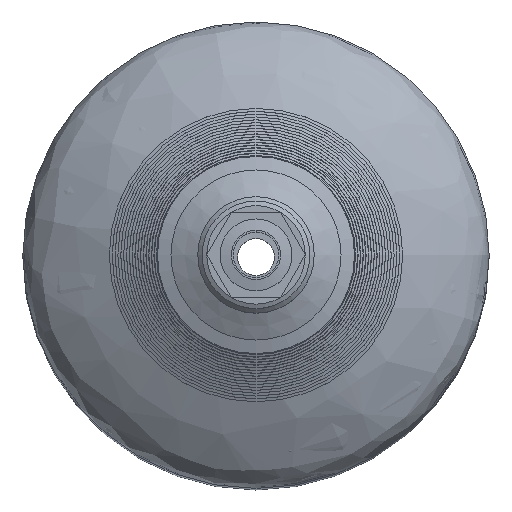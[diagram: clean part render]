
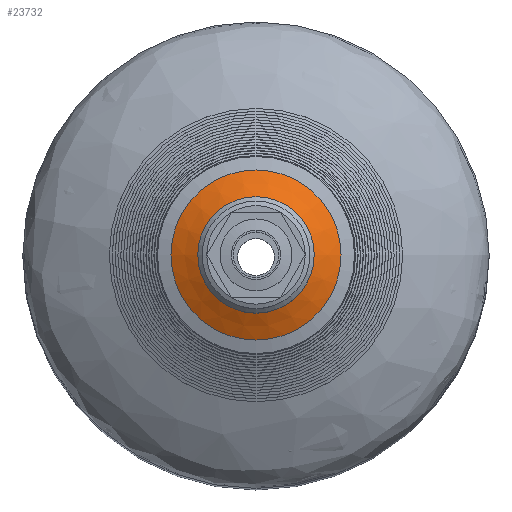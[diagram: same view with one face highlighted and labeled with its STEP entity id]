
A CAD part, top view. The second image highlights one B-rep face of the part: STEP entity #23732.
In plain terms, the highlighted conical face has half-angle 63.435 degrees and reference radius 38 mm.
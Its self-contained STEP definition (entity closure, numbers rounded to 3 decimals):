
#23575 = CONICAL_SURFACE('',#23576,44.,1.249);
#23576 = AXIS2_PLACEMENT_3D('',#23577,#23578,#23579);
#23577 = CARTESIAN_POINT('',(0.,0.,254.));
#23578 = DIRECTION('',(-0.,-0.,-1.));
#23579 = DIRECTION('',(1.,0.,-0.));
#23648 = VERTEX_POINT('',#23649);
#23649 = CARTESIAN_POINT('',(38.,0.,256.));
#23670 = EDGE_CURVE('',#23648,#23648,#23671,.T.);
#23671 = SURFACE_CURVE('',#23672,(#23677,#23684),.PCURVE_S1.);
#23672 = CIRCLE('',#23673,38.);
#23673 = AXIS2_PLACEMENT_3D('',#23674,#23675,#23676);
#23674 = CARTESIAN_POINT('',(0.,0.,256.));
#23675 = DIRECTION('',(0.,0.,1.));
#23676 = DIRECTION('',(1.,0.,-0.));
#23677 = PCURVE('',#23575,#23678);
#23678 = DEFINITIONAL_REPRESENTATION('',(#23679),#23683);
#23679 = LINE('',#23680,#23681);
#23680 = CARTESIAN_POINT('',(-0.,-2.));
#23681 = VECTOR('',#23682,1.);
#23682 = DIRECTION('',(-1.,-0.));
#23683 = ( GEOMETRIC_REPRESENTATION_CONTEXT(2) 
PARAMETRIC_REPRESENTATION_CONTEXT() REPRESENTATION_CONTEXT('2D SPACE',''
  ) );
#23684 = PCURVE('',#23685,#23690);
#23685 = CONICAL_SURFACE('',#23686,38.,1.107);
#23686 = AXIS2_PLACEMENT_3D('',#23687,#23688,#23689);
#23687 = CARTESIAN_POINT('',(0.,0.,256.));
#23688 = DIRECTION('',(-0.,-0.,-1.));
#23689 = DIRECTION('',(1.,0.,-0.));
#23690 = DEFINITIONAL_REPRESENTATION('',(#23691),#23695);
#23691 = LINE('',#23692,#23693);
#23692 = CARTESIAN_POINT('',(-0.,-0.));
#23693 = VECTOR('',#23694,1.);
#23694 = DIRECTION('',(-1.,-0.));
#23695 = ( GEOMETRIC_REPRESENTATION_CONTEXT(2) 
PARAMETRIC_REPRESENTATION_CONTEXT() REPRESENTATION_CONTEXT('2D SPACE',''
  ) );
#23732 = ADVANCED_FACE('',(#23733),#23685,.T.);
#23733 = FACE_BOUND('',#23734,.T.);
#23734 = EDGE_LOOP('',(#23735,#23736,#23759,#23786));
#23735 = ORIENTED_EDGE('',*,*,#23670,.T.);
#23736 = ORIENTED_EDGE('',*,*,#23737,.T.);
#23737 = EDGE_CURVE('',#23648,#23738,#23740,.T.);
#23738 = VERTEX_POINT('',#23739);
#23739 = CARTESIAN_POINT('',(26.,0.,262.));
#23740 = SEAM_CURVE('',#23741,(#23745,#23752),.PCURVE_S1.);
#23741 = LINE('',#23742,#23743);
#23742 = CARTESIAN_POINT('',(38.,0.,256.));
#23743 = VECTOR('',#23744,1.);
#23744 = DIRECTION('',(-0.894,0.,0.447));
#23745 = PCURVE('',#23685,#23746);
#23746 = DEFINITIONAL_REPRESENTATION('',(#23747),#23751);
#23747 = LINE('',#23748,#23749);
#23748 = CARTESIAN_POINT('',(-0.,-0.));
#23749 = VECTOR('',#23750,1.);
#23750 = DIRECTION('',(-0.,-1.));
#23751 = ( GEOMETRIC_REPRESENTATION_CONTEXT(2) 
PARAMETRIC_REPRESENTATION_CONTEXT() REPRESENTATION_CONTEXT('2D SPACE',''
  ) );
#23752 = PCURVE('',#23685,#23753);
#23753 = DEFINITIONAL_REPRESENTATION('',(#23754),#23758);
#23754 = LINE('',#23755,#23756);
#23755 = CARTESIAN_POINT('',(-6.283,-0.));
#23756 = VECTOR('',#23757,1.);
#23757 = DIRECTION('',(-0.,-1.));
#23758 = ( GEOMETRIC_REPRESENTATION_CONTEXT(2) 
PARAMETRIC_REPRESENTATION_CONTEXT() REPRESENTATION_CONTEXT('2D SPACE',''
  ) );
#23759 = ORIENTED_EDGE('',*,*,#23760,.F.);
#23760 = EDGE_CURVE('',#23738,#23738,#23761,.T.);
#23761 = SURFACE_CURVE('',#23762,(#23767,#23774),.PCURVE_S1.);
#23762 = CIRCLE('',#23763,26.);
#23763 = AXIS2_PLACEMENT_3D('',#23764,#23765,#23766);
#23764 = CARTESIAN_POINT('',(0.,0.,262.));
#23765 = DIRECTION('',(0.,0.,1.));
#23766 = DIRECTION('',(1.,0.,-0.));
#23767 = PCURVE('',#23685,#23768);
#23768 = DEFINITIONAL_REPRESENTATION('',(#23769),#23773);
#23769 = LINE('',#23770,#23771);
#23770 = CARTESIAN_POINT('',(-0.,-6.));
#23771 = VECTOR('',#23772,1.);
#23772 = DIRECTION('',(-1.,-0.));
#23773 = ( GEOMETRIC_REPRESENTATION_CONTEXT(2) 
PARAMETRIC_REPRESENTATION_CONTEXT() REPRESENTATION_CONTEXT('2D SPACE',''
  ) );
#23774 = PCURVE('',#23775,#23780);
#23775 = CYLINDRICAL_SURFACE('',#23776,26.);
#23776 = AXIS2_PLACEMENT_3D('',#23777,#23778,#23779);
#23777 = CARTESIAN_POINT('',(0.,0.,262.));
#23778 = DIRECTION('',(0.,0.,1.));
#23779 = DIRECTION('',(1.,0.,-0.));
#23780 = DEFINITIONAL_REPRESENTATION('',(#23781),#23785);
#23781 = LINE('',#23782,#23783);
#23782 = CARTESIAN_POINT('',(0.,0.));
#23783 = VECTOR('',#23784,1.);
#23784 = DIRECTION('',(1.,0.));
#23785 = ( GEOMETRIC_REPRESENTATION_CONTEXT(2) 
PARAMETRIC_REPRESENTATION_CONTEXT() REPRESENTATION_CONTEXT('2D SPACE',''
  ) );
#23786 = ORIENTED_EDGE('',*,*,#23737,.F.);
